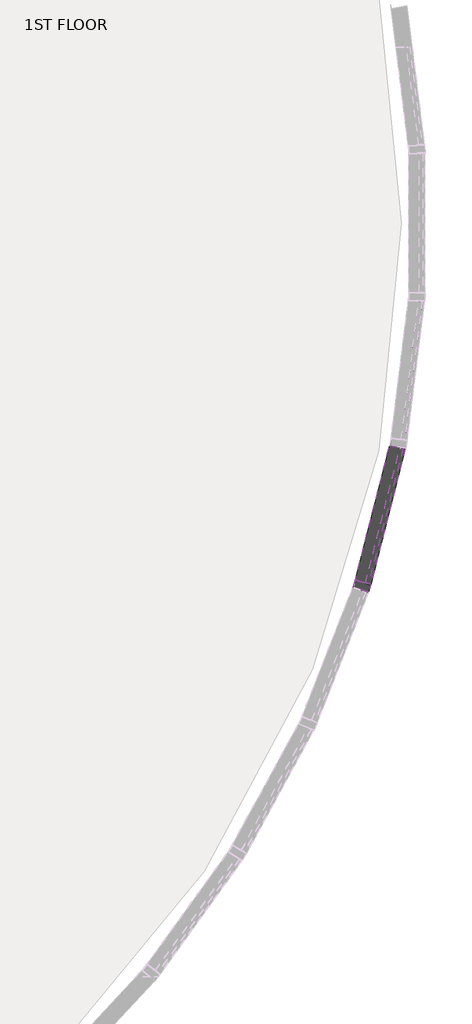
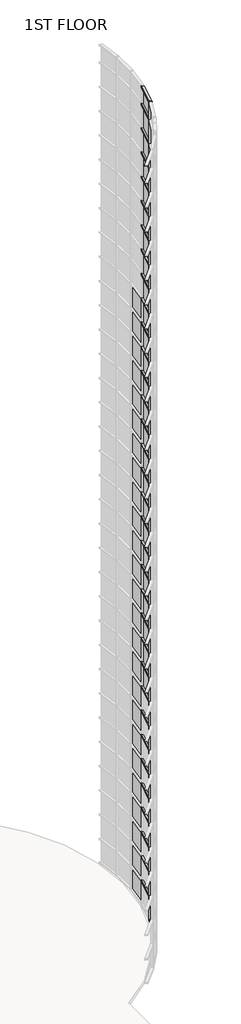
# One storey, part 8 of 17: 69 members, 50 plates.
"""IFC4 building model written with IfcOpenShell, lengths in millimetres."""

from ifc_helpers import new_model, si_unit, origin, place, context, project, spatial, transform, mapped, element, save
from components import member_56cb0dcd, member_0c249660, member_2b49869a, member_410c6227, system_panel_glazed_ce2914f7, system_panel_glazed_e049e42f, system_panel_glazed_5ae89cf9

model = new_model("IFC4")

# Units and contexts
model_context = context("Model", 3, world=origin())
ifc_project = project(units=[si_unit("LENGTHUNIT", "METRE", prefix="MILLI")], contexts=[model_context])

# Site, building, storey
site = spatial("IfcSite", under=ifc_project)
building = spatial("IfcBuilding", under=site)
storey = spatial("IfcBuildingStorey", under=building, Name="1ST FLOOR", Elevation=4572.0)

# Members
placement = place(None, origin())
member_shape = member_56cb0dcd(model_context)
element("IfcMember", 1, ObjectType="Rectangular Mullion : 2.5\" x 5\" rectangular", at=placement, inside=storey, context=model_context, shape_type="MappedRepresentation", body=[
    mapped(member_shape, transform((47831.5995156, 14092.143718, 45720.0), x_axis=(0.0, 0.0, 1.0), y_axis=(-0.9689314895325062, 0.24732927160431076, 0.0), z_axis=(-0.24732927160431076, -0.9689314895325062, 0.0))),
])
element("IfcMember", 2, ObjectType="Rectangular Mullion : 2.5\" x 5\" rectangular", at=placement, inside=storey, context=model_context, shape_type="MappedRepresentation", body=[
    mapped(member_shape, transform((47812.1210744, 14031.8351818, 4572.0), x_axis=(0.0, 0.0, -1.0), y_axis=(-0.9305499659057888, 0.36616493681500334, 0.0), z_axis=(0.36616493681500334, 0.9305499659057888, 0.0))),
])
member_2_shape = member_0c249660(model_context)
element("IfcMember", 3, ObjectType="Rectangular Mullion : 2.5\" x 5\" rectangular", at=placement, inside=storey, context=model_context, shape_type="MappedRepresentation", body=[
    mapped(member_2_shape, transform((47831.5995156, 14092.143718, 5791.2), x_axis=(0.0, 0.0, 1.0), y_axis=(-0.9689314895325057, 0.24732927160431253, 0.0), z_axis=(-0.24732927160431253, -0.9689314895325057, 0.0))),
])
element("IfcMember", 4, ObjectType="Rectangular Mullion : 2.5\" x 5\" rectangular", at=placement, inside=storey, context=model_context, shape_type="MappedRepresentation", body=[
    mapped(member_2_shape, transform((47831.5995156, 14092.143718, 7010.4), x_axis=(0.0, 0.0, 1.0), y_axis=(-0.9689314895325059, 0.2473292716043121, 0.0), z_axis=(-0.2473292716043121, -0.9689314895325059, 0.0))),
])
element("IfcMember", 5, ObjectType="Rectangular Mullion : 2.5\" x 5\" rectangular", at=placement, inside=storey, context=model_context, shape_type="MappedRepresentation", body=[
    mapped(member_2_shape, transform((47831.5995156, 14092.143718, 8229.6), x_axis=(0.0, 0.0, 1.0), y_axis=(-0.9689314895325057, 0.24732927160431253, 0.0), z_axis=(-0.24732927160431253, -0.9689314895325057, 0.0))),
])
element("IfcMember", 6, ObjectType="Rectangular Mullion : 2.5\" x 5\" rectangular", at=placement, inside=storey, context=model_context, shape_type="MappedRepresentation", body=[
    mapped(member_2_shape, transform((47831.5995156, 14092.143718, 9448.8), x_axis=(0.0, 0.0, 1.0), y_axis=(-0.9689314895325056, 0.247329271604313, 0.0), z_axis=(-0.24732927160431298, -0.9689314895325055, 0.0))),
])
element("IfcMember", 7, ObjectType="Rectangular Mullion : 2.5\" x 5\" rectangular", at=placement, inside=storey, context=model_context, shape_type="MappedRepresentation", body=[
    mapped(member_2_shape, transform((47831.5995156, 14092.143718, 10668.0), x_axis=(0.0, 0.0, 1.0), y_axis=(-0.9689314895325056, 0.247329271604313, 0.0), z_axis=(-0.24732927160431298, -0.9689314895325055, 0.0))),
])
element("IfcMember", 8, ObjectType="Rectangular Mullion : 2.5\" x 5\" rectangular", at=placement, inside=storey, context=model_context, shape_type="MappedRepresentation", body=[
    mapped(member_2_shape, transform((47831.5995156, 14092.143718, 11887.2), x_axis=(0.0, 0.0, 1.0), y_axis=(-0.9689314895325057, 0.24732927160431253, 0.0), z_axis=(-0.24732927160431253, -0.9689314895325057, 0.0))),
])
element("IfcMember", 9, ObjectType="Rectangular Mullion : 2.5\" x 5\" rectangular", at=placement, inside=storey, context=model_context, shape_type="MappedRepresentation", body=[
    mapped(member_2_shape, transform((47831.5995156, 14092.143718, 13106.4), x_axis=(0.0, 0.0, 1.0), y_axis=(-0.9689314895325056, 0.247329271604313, 0.0), z_axis=(-0.24732927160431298, -0.9689314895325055, 0.0))),
])
element("IfcMember", 10, ObjectType="Rectangular Mullion : 2.5\" x 5\" rectangular", at=placement, inside=storey, context=model_context, shape_type="MappedRepresentation", body=[
    mapped(member_2_shape, transform((47831.5995156, 14092.143718, 14325.6), x_axis=(0.0, 0.0, 1.0), y_axis=(-0.9689314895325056, 0.247329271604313, 0.0), z_axis=(-0.24732927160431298, -0.9689314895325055, 0.0))),
])
element("IfcMember", 11, ObjectType="Rectangular Mullion : 2.5\" x 5\" rectangular", at=placement, inside=storey, context=model_context, shape_type="MappedRepresentation", body=[
    mapped(member_2_shape, transform((47831.5995156, 14092.143718, 15544.8), x_axis=(0.0, 0.0, 1.0), y_axis=(-0.9689314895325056, 0.247329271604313, 0.0), z_axis=(-0.24732927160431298, -0.9689314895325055, 0.0))),
])
element("IfcMember", 12, ObjectType="Rectangular Mullion : 2.5\" x 5\" rectangular", at=placement, inside=storey, context=model_context, shape_type="MappedRepresentation", body=[
    mapped(member_2_shape, transform((47831.5995156, 14092.143718, 16764.0), x_axis=(0.0, 0.0, 1.0), y_axis=(-0.9689314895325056, 0.247329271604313, 0.0), z_axis=(-0.24732927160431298, -0.9689314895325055, 0.0))),
])
element("IfcMember", 13, ObjectType="Rectangular Mullion : 2.5\" x 5\" rectangular", at=placement, inside=storey, context=model_context, shape_type="MappedRepresentation", body=[
    mapped(member_2_shape, transform((47831.5995156, 14092.143718, 17983.2), x_axis=(0.0, 0.0, 1.0), y_axis=(-0.9689314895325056, 0.247329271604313, 0.0), z_axis=(-0.24732927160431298, -0.9689314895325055, 0.0))),
])
element("IfcMember", 14, ObjectType="Rectangular Mullion : 2.5\" x 5\" rectangular", at=placement, inside=storey, context=model_context, shape_type="MappedRepresentation", body=[
    mapped(member_2_shape, transform((47831.5995156, 14092.143718, 19202.4), x_axis=(0.0, 0.0, 1.0), y_axis=(-0.9689314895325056, 0.247329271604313, 0.0), z_axis=(-0.24732927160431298, -0.9689314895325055, 0.0))),
])
element("IfcMember", 15, ObjectType="Rectangular Mullion : 2.5\" x 5\" rectangular", at=placement, inside=storey, context=model_context, shape_type="MappedRepresentation", body=[
    mapped(member_2_shape, transform((47831.5995156, 14092.143718, 20421.6), x_axis=(0.0, 0.0, 1.0), y_axis=(-0.9689314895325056, 0.247329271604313, 0.0), z_axis=(-0.24732927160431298, -0.9689314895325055, 0.0))),
])
element("IfcMember", 16, ObjectType="Rectangular Mullion : 2.5\" x 5\" rectangular", at=placement, inside=storey, context=model_context, shape_type="MappedRepresentation", body=[
    mapped(member_2_shape, transform((47831.5995156, 14092.143718, 21640.8), x_axis=(0.0, 0.0, 1.0), y_axis=(-0.9689314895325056, 0.247329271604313, 0.0), z_axis=(-0.24732927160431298, -0.9689314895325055, 0.0))),
])
element("IfcMember", 17, ObjectType="Rectangular Mullion : 2.5\" x 5\" rectangular", at=placement, inside=storey, context=model_context, shape_type="MappedRepresentation", body=[
    mapped(member_2_shape, transform((47831.5995156, 14092.143718, 22860.0), x_axis=(0.0, 0.0, 1.0), y_axis=(-0.9689314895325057, 0.24732927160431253, 0.0), z_axis=(-0.24732927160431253, -0.9689314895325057, 0.0))),
])
element("IfcMember", 18, ObjectType="Rectangular Mullion : 2.5\" x 5\" rectangular", at=placement, inside=storey, context=model_context, shape_type="MappedRepresentation", body=[
    mapped(member_2_shape, transform((47831.5995156, 14092.143718, 24079.2), x_axis=(0.0, 0.0, 1.0), y_axis=(-0.9689314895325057, 0.24732927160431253, 0.0), z_axis=(-0.24732927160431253, -0.9689314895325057, 0.0))),
])
element("IfcMember", 19, ObjectType="Rectangular Mullion : 2.5\" x 5\" rectangular", at=placement, inside=storey, context=model_context, shape_type="MappedRepresentation", body=[
    mapped(member_2_shape, transform((47831.5995156, 14092.143718, 25298.4), x_axis=(0.0, 0.0, 1.0), y_axis=(-0.9689314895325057, 0.24732927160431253, 0.0), z_axis=(-0.24732927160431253, -0.9689314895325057, 0.0))),
])
element("IfcMember", 20, ObjectType="Rectangular Mullion : 2.5\" x 5\" rectangular", at=placement, inside=storey, context=model_context, shape_type="MappedRepresentation", body=[
    mapped(member_2_shape, transform((47831.5995156, 14092.143718, 26517.6), x_axis=(0.0, 0.0, 1.0), y_axis=(-0.9689314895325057, 0.24732927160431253, 0.0), z_axis=(-0.24732927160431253, -0.9689314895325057, 0.0))),
])
element("IfcMember", 21, ObjectType="Rectangular Mullion : 2.5\" x 5\" rectangular", at=placement, inside=storey, context=model_context, shape_type="MappedRepresentation", body=[
    mapped(member_2_shape, transform((47831.5995156, 14092.143718, 27736.8), x_axis=(0.0, 0.0, 1.0), y_axis=(-0.9689314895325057, 0.24732927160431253, 0.0), z_axis=(-0.24732927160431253, -0.9689314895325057, 0.0))),
])
element("IfcMember", 22, ObjectType="Rectangular Mullion : 2.5\" x 5\" rectangular", at=placement, inside=storey, context=model_context, shape_type="MappedRepresentation", body=[
    mapped(member_2_shape, transform((47831.5995156, 14092.143718, 28956.0), x_axis=(0.0, 0.0, 1.0), y_axis=(-0.9689314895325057, 0.24732927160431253, 0.0), z_axis=(-0.24732927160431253, -0.9689314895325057, 0.0))),
])
element("IfcMember", 23, ObjectType="Rectangular Mullion : 2.5\" x 5\" rectangular", at=placement, inside=storey, context=model_context, shape_type="MappedRepresentation", body=[
    mapped(member_2_shape, transform((47831.5995156, 14092.143718, 30175.2), x_axis=(0.0, 0.0, 1.0), y_axis=(-0.9689314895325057, 0.24732927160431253, 0.0), z_axis=(-0.24732927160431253, -0.9689314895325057, 0.0))),
])
element("IfcMember", 24, ObjectType="Rectangular Mullion : 2.5\" x 5\" rectangular", at=placement, inside=storey, context=model_context, shape_type="MappedRepresentation", body=[
    mapped(member_2_shape, transform((47831.5995156, 14092.143718, 31394.4), x_axis=(0.0, 0.0, 1.0), y_axis=(-0.9689314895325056, 0.247329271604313, 0.0), z_axis=(-0.24732927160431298, -0.9689314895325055, 0.0))),
])
element("IfcMember", 25, ObjectType="Rectangular Mullion : 2.5\" x 5\" rectangular", at=placement, inside=storey, context=model_context, shape_type="MappedRepresentation", body=[
    mapped(member_2_shape, transform((47831.5995156, 14092.143718, 32613.6), x_axis=(0.0, 0.0, 1.0), y_axis=(-0.9689314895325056, 0.247329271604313, 0.0), z_axis=(-0.24732927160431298, -0.9689314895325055, 0.0))),
])
element("IfcMember", 26, ObjectType="Rectangular Mullion : 2.5\" x 5\" rectangular", at=placement, inside=storey, context=model_context, shape_type="MappedRepresentation", body=[
    mapped(member_2_shape, transform((47831.5995156, 14092.143718, 33832.8), x_axis=(0.0, 0.0, 1.0), y_axis=(-0.9689314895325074, 0.24732927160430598, 0.0), z_axis=(-0.24732927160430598, -0.9689314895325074, 0.0))),
])
element("IfcMember", 27, ObjectType="Rectangular Mullion : 2.5\" x 5\" rectangular", at=placement, inside=storey, context=model_context, shape_type="MappedRepresentation", body=[
    mapped(member_2_shape, transform((47831.5995156, 14092.143718, 35052.0), x_axis=(0.0, 0.0, 1.0), y_axis=(-0.9689314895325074, 0.24732927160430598, 0.0), z_axis=(-0.24732927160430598, -0.9689314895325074, 0.0))),
])
element("IfcMember", 28, ObjectType="Rectangular Mullion : 2.5\" x 5\" rectangular", at=placement, inside=storey, context=model_context, shape_type="MappedRepresentation", body=[
    mapped(member_2_shape, transform((47831.5995156, 14092.143718, 36271.2), x_axis=(0.0, 0.0, 1.0), y_axis=(-0.9689314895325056, 0.247329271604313, 0.0), z_axis=(-0.24732927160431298, -0.9689314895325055, 0.0))),
])
element("IfcMember", 29, ObjectType="Rectangular Mullion : 2.5\" x 5\" rectangular", at=placement, inside=storey, context=model_context, shape_type="MappedRepresentation", body=[
    mapped(member_2_shape, transform((47831.5995156, 14092.143718, 37490.4), x_axis=(0.0, 0.0, 1.0), y_axis=(-0.9689314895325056, 0.247329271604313, 0.0), z_axis=(-0.24732927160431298, -0.9689314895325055, 0.0))),
])
element("IfcMember", 30, ObjectType="Rectangular Mullion : 2.5\" x 5\" rectangular", at=placement, inside=storey, context=model_context, shape_type="MappedRepresentation", body=[
    mapped(member_2_shape, transform((47831.5995156, 14092.143718, 38709.6), x_axis=(0.0, 0.0, 1.0), y_axis=(-0.9689314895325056, 0.247329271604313, 0.0), z_axis=(-0.24732927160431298, -0.9689314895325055, 0.0))),
])
element("IfcMember", 31, ObjectType="Rectangular Mullion : 2.5\" x 5\" rectangular", at=placement, inside=storey, context=model_context, shape_type="MappedRepresentation", body=[
    mapped(member_2_shape, transform((47831.5995156, 14092.143718, 39928.8), x_axis=(0.0, 0.0, 1.0), y_axis=(-0.9689314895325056, 0.247329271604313, 0.0), z_axis=(-0.24732927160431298, -0.9689314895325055, 0.0))),
])
element("IfcMember", 32, ObjectType="Rectangular Mullion : 2.5\" x 5\" rectangular", at=placement, inside=storey, context=model_context, shape_type="MappedRepresentation", body=[
    mapped(member_2_shape, transform((47831.5995156, 14092.143718, 41148.0), x_axis=(0.0, 0.0, 1.0), y_axis=(-0.9689314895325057, 0.24732927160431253, 0.0), z_axis=(-0.24732927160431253, -0.9689314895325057, 0.0))),
])
element("IfcMember", 33, ObjectType="Rectangular Mullion : 2.5\" x 5\" rectangular", at=placement, inside=storey, context=model_context, shape_type="MappedRepresentation", body=[
    mapped(member_2_shape, transform((47831.5995156, 14092.143718, 42367.2), x_axis=(0.0, 0.0, 1.0), y_axis=(-0.9689314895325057, 0.24732927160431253, 0.0), z_axis=(-0.24732927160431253, -0.9689314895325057, 0.0))),
])
element("IfcMember", 34, ObjectType="Rectangular Mullion : 2.5\" x 5\" rectangular", at=placement, inside=storey, context=model_context, shape_type="MappedRepresentation", body=[
    mapped(member_2_shape, transform((47831.5995156, 14092.143718, 43586.4), x_axis=(0.0, 0.0, 1.0), y_axis=(-0.9689314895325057, 0.24732927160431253, 0.0), z_axis=(-0.24732927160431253, -0.9689314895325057, 0.0))),
])
element("IfcMember", 35, ObjectType="Rectangular Mullion : 2.5\" x 5\" rectangular", at=placement, inside=storey, context=model_context, shape_type="MappedRepresentation", body=[
    mapped(member_2_shape, transform((47831.5995156, 14092.143718, 44805.6), x_axis=(0.0, 0.0, 1.0), y_axis=(-0.9689314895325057, 0.24732927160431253, 0.0), z_axis=(-0.24732927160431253, -0.9689314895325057, 0.0))),
])
member_3_shape = member_2b49869a(model_context)
element("IfcMember", 36, ObjectType="Rectangular Mullion : 2.5\" x 5\" rectangular", at=placement, inside=storey, context=model_context, shape_type="MappedRepresentation", body=[
    mapped(member_3_shape, transform((47823.7468112, 14061.3801432, 4572.0), x_axis=(-0.30734682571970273, -0.9515975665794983, 0.0), y_axis=(-0.9515975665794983, 0.30734682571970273, 0.0), z_axis=(0.0, 0.0, -1.0))),
])
element("IfcMember", 37, ObjectType="Rectangular Mullion : 2.5\" x 5\" rectangular", at=placement, inside=storey, context=model_context, shape_type="MappedRepresentation", body=[
    mapped(member_3_shape, transform((47823.7468112, 14061.3801432, 5791.2), x_axis=(-0.30734682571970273, -0.9515975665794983, 0.0), y_axis=(-0.9515975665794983, 0.30734682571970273, 0.0), z_axis=(0.0, 0.0, -1.0))),
])
element("IfcMember", 38, ObjectType="Rectangular Mullion : 2.5\" x 5\" rectangular", at=placement, inside=storey, context=model_context, shape_type="MappedRepresentation", body=[
    mapped(member_3_shape, transform((47823.7468112, 14061.3801432, 7010.4), x_axis=(-0.30734682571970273, -0.9515975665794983, 0.0), y_axis=(-0.9515975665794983, 0.30734682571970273, 0.0), z_axis=(0.0, 0.0, -1.0))),
])
element("IfcMember", 39, ObjectType="Rectangular Mullion : 2.5\" x 5\" rectangular", at=placement, inside=storey, context=model_context, shape_type="MappedRepresentation", body=[
    mapped(member_3_shape, transform((47823.7468112, 14061.3801432, 8229.6), x_axis=(-0.30734682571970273, -0.9515975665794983, 0.0), y_axis=(-0.9515975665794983, 0.30734682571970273, 0.0), z_axis=(0.0, 0.0, -1.0))),
])
element("IfcMember", 40, ObjectType="Rectangular Mullion : 2.5\" x 5\" rectangular", at=placement, inside=storey, context=model_context, shape_type="MappedRepresentation", body=[
    mapped(member_3_shape, transform((47823.7468112, 14061.3801432, 9448.8), x_axis=(-0.30734682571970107, -0.9515975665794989, 0.0), y_axis=(-0.9515975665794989, 0.30734682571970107, 0.0), z_axis=(0.0, 0.0, -1.0))),
])
element("IfcMember", 41, ObjectType="Rectangular Mullion : 2.5\" x 5\" rectangular", at=placement, inside=storey, context=model_context, shape_type="MappedRepresentation", body=[
    mapped(member_3_shape, transform((47823.7468112, 14061.3801432, 10668.0), x_axis=(-0.30734682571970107, -0.9515975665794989, 0.0), y_axis=(-0.9515975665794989, 0.30734682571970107, 0.0), z_axis=(0.0, 0.0, -1.0))),
])
element("IfcMember", 42, ObjectType="Rectangular Mullion : 2.5\" x 5\" rectangular", at=placement, inside=storey, context=model_context, shape_type="MappedRepresentation", body=[
    mapped(member_3_shape, transform((47823.7468112, 14061.3801432, 11887.2), x_axis=(-0.30734682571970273, -0.9515975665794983, 0.0), y_axis=(-0.9515975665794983, 0.30734682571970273, 0.0), z_axis=(0.0, 0.0, -1.0))),
])
element("IfcMember", 43, ObjectType="Rectangular Mullion : 2.5\" x 5\" rectangular", at=placement, inside=storey, context=model_context, shape_type="MappedRepresentation", body=[
    mapped(member_3_shape, transform((47823.7468112, 14061.3801432, 13106.4), x_axis=(-0.30734682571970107, -0.9515975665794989, 0.0), y_axis=(-0.9515975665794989, 0.30734682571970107, 0.0), z_axis=(0.0, 0.0, -1.0))),
])
element("IfcMember", 44, ObjectType="Rectangular Mullion : 2.5\" x 5\" rectangular", at=placement, inside=storey, context=model_context, shape_type="MappedRepresentation", body=[
    mapped(member_3_shape, transform((47823.7468112, 14061.3801432, 14325.6), x_axis=(-0.30734682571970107, -0.9515975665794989, 0.0), y_axis=(-0.9515975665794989, 0.30734682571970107, 0.0), z_axis=(0.0, 0.0, -1.0))),
])
element("IfcMember", 45, ObjectType="Rectangular Mullion : 2.5\" x 5\" rectangular", at=placement, inside=storey, context=model_context, shape_type="MappedRepresentation", body=[
    mapped(member_3_shape, transform((47823.7468112, 14061.3801432, 15544.8), x_axis=(-0.30734682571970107, -0.9515975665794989, 0.0), y_axis=(-0.9515975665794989, 0.30734682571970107, 0.0), z_axis=(0.0, 0.0, -1.0))),
])
element("IfcMember", 46, ObjectType="Rectangular Mullion : 2.5\" x 5\" rectangular", at=placement, inside=storey, context=model_context, shape_type="MappedRepresentation", body=[
    mapped(member_3_shape, transform((47823.7468112, 14061.3801432, 16764.0), x_axis=(-0.30734682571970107, -0.9515975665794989, 0.0), y_axis=(-0.9515975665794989, 0.30734682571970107, 0.0), z_axis=(0.0, 0.0, -1.0))),
])
element("IfcMember", 47, ObjectType="Rectangular Mullion : 2.5\" x 5\" rectangular", at=placement, inside=storey, context=model_context, shape_type="MappedRepresentation", body=[
    mapped(member_3_shape, transform((47823.7468112, 14061.3801432, 17983.2), x_axis=(-0.30734682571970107, -0.9515975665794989, 0.0), y_axis=(-0.9515975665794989, 0.30734682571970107, 0.0), z_axis=(0.0, 0.0, -1.0))),
])
element("IfcMember", 48, ObjectType="Rectangular Mullion : 2.5\" x 5\" rectangular", at=placement, inside=storey, context=model_context, shape_type="MappedRepresentation", body=[
    mapped(member_3_shape, transform((47823.7468112, 14061.3801432, 19202.4), x_axis=(-0.30734682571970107, -0.9515975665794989, 0.0), y_axis=(-0.9515975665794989, 0.30734682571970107, 0.0), z_axis=(0.0, 0.0, -1.0))),
])
element("IfcMember", 49, ObjectType="Rectangular Mullion : 2.5\" x 5\" rectangular", at=placement, inside=storey, context=model_context, shape_type="MappedRepresentation", body=[
    mapped(member_3_shape, transform((47823.7468112, 14061.3801432, 20421.6), x_axis=(-0.30734682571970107, -0.9515975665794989, 0.0), y_axis=(-0.9515975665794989, 0.30734682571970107, 0.0), z_axis=(0.0, 0.0, -1.0))),
])
element("IfcMember", 50, ObjectType="Rectangular Mullion : 2.5\" x 5\" rectangular", at=placement, inside=storey, context=model_context, shape_type="MappedRepresentation", body=[
    mapped(member_3_shape, transform((47823.7468112, 14061.3801432, 21640.8), x_axis=(-0.30734682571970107, -0.9515975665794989, 0.0), y_axis=(-0.9515975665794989, 0.30734682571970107, 0.0), z_axis=(0.0, 0.0, -1.0))),
])
element("IfcMember", 51, ObjectType="Rectangular Mullion : 2.5\" x 5\" rectangular", at=placement, inside=storey, context=model_context, shape_type="MappedRepresentation", body=[
    mapped(member_3_shape, transform((47823.7468112, 14061.3801432, 22860.0), x_axis=(-0.30734682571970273, -0.9515975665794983, 0.0), y_axis=(-0.9515975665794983, 0.30734682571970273, 0.0), z_axis=(0.0, 0.0, -1.0))),
])
element("IfcMember", 52, ObjectType="Rectangular Mullion : 2.5\" x 5\" rectangular", at=placement, inside=storey, context=model_context, shape_type="MappedRepresentation", body=[
    mapped(member_3_shape, transform((47823.7468112, 14061.3801432, 24079.2), x_axis=(-0.30734682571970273, -0.9515975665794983, 0.0), y_axis=(-0.9515975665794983, 0.30734682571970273, 0.0), z_axis=(0.0, 0.0, -1.0))),
])
element("IfcMember", 53, ObjectType="Rectangular Mullion : 2.5\" x 5\" rectangular", at=placement, inside=storey, context=model_context, shape_type="MappedRepresentation", body=[
    mapped(member_3_shape, transform((47823.7468112, 14061.3801432, 25298.4), x_axis=(-0.30734682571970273, -0.9515975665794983, 0.0), y_axis=(-0.9515975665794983, 0.30734682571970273, 0.0), z_axis=(0.0, 0.0, -1.0))),
])
element("IfcMember", 54, ObjectType="Rectangular Mullion : 2.5\" x 5\" rectangular", at=placement, inside=storey, context=model_context, shape_type="MappedRepresentation", body=[
    mapped(member_3_shape, transform((47823.7468112, 14061.3801432, 26517.6), x_axis=(-0.30734682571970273, -0.9515975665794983, 0.0), y_axis=(-0.9515975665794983, 0.30734682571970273, 0.0), z_axis=(0.0, 0.0, -1.0))),
])
element("IfcMember", 55, ObjectType="Rectangular Mullion : 2.5\" x 5\" rectangular", at=placement, inside=storey, context=model_context, shape_type="MappedRepresentation", body=[
    mapped(member_3_shape, transform((47823.7468112, 14061.3801432, 27736.8), x_axis=(-0.30734682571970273, -0.9515975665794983, 0.0), y_axis=(-0.9515975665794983, 0.30734682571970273, 0.0), z_axis=(0.0, 0.0, -1.0))),
])
element("IfcMember", 56, ObjectType="Rectangular Mullion : 2.5\" x 5\" rectangular", at=placement, inside=storey, context=model_context, shape_type="MappedRepresentation", body=[
    mapped(member_3_shape, transform((47823.7468112, 14061.3801432, 28956.0), x_axis=(-0.30734682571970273, -0.9515975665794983, 0.0), y_axis=(-0.9515975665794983, 0.30734682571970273, 0.0), z_axis=(0.0, 0.0, -1.0))),
])
element("IfcMember", 57, ObjectType="Rectangular Mullion : 2.5\" x 5\" rectangular", at=placement, inside=storey, context=model_context, shape_type="MappedRepresentation", body=[
    mapped(member_3_shape, transform((47823.7468112, 14061.3801432, 30175.2), x_axis=(-0.30734682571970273, -0.9515975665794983, 0.0), y_axis=(-0.9515975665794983, 0.30734682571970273, 0.0), z_axis=(0.0, 0.0, -1.0))),
])
element("IfcMember", 58, ObjectType="Rectangular Mullion : 2.5\" x 5\" rectangular", at=placement, inside=storey, context=model_context, shape_type="MappedRepresentation", body=[
    mapped(member_3_shape, transform((47823.7468112, 14061.3801432, 31394.4), x_axis=(-0.30734682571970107, -0.9515975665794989, 0.0), y_axis=(-0.9515975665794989, 0.30734682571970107, 0.0), z_axis=(0.0, 0.0, -1.0))),
])
element("IfcMember", 59, ObjectType="Rectangular Mullion : 2.5\" x 5\" rectangular", at=placement, inside=storey, context=model_context, shape_type="MappedRepresentation", body=[
    mapped(member_3_shape, transform((47823.7468112, 14061.3801432, 32613.6), x_axis=(-0.30734682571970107, -0.9515975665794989, 0.0), y_axis=(-0.9515975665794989, 0.30734682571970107, 0.0), z_axis=(0.0, 0.0, -1.0))),
])
element("IfcMember", 60, ObjectType="Rectangular Mullion : 2.5\" x 5\" rectangular", at=placement, inside=storey, context=model_context, shape_type="MappedRepresentation", body=[
    mapped(member_3_shape, transform((47823.7468112, 14061.3801432, 33832.8), x_axis=(-0.3073468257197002, -0.9515975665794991, 0.0), y_axis=(-0.9515975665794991, 0.3073468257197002, 0.0), z_axis=(0.0, 0.0, -1.0))),
])
element("IfcMember", 61, ObjectType="Rectangular Mullion : 2.5\" x 5\" rectangular", at=placement, inside=storey, context=model_context, shape_type="MappedRepresentation", body=[
    mapped(member_3_shape, transform((47823.7468112, 14061.3801432, 35052.0), x_axis=(-0.3073468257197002, -0.9515975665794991, 0.0), y_axis=(-0.9515975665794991, 0.3073468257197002, 0.0), z_axis=(0.0, 0.0, -1.0))),
])
element("IfcMember", 62, ObjectType="Rectangular Mullion : 2.5\" x 5\" rectangular", at=placement, inside=storey, context=model_context, shape_type="MappedRepresentation", body=[
    mapped(member_3_shape, transform((47823.7468112, 14061.3801432, 36271.2), x_axis=(-0.30734682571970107, -0.9515975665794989, 0.0), y_axis=(-0.9515975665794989, 0.30734682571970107, 0.0), z_axis=(0.0, 0.0, -1.0))),
])
element("IfcMember", 63, ObjectType="Rectangular Mullion : 2.5\" x 5\" rectangular", at=placement, inside=storey, context=model_context, shape_type="MappedRepresentation", body=[
    mapped(member_3_shape, transform((47823.7468112, 14061.3801432, 37490.4), x_axis=(-0.30734682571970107, -0.9515975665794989, 0.0), y_axis=(-0.9515975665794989, 0.30734682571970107, 0.0), z_axis=(0.0, 0.0, -1.0))),
])
element("IfcMember", 64, ObjectType="Rectangular Mullion : 2.5\" x 5\" rectangular", at=placement, inside=storey, context=model_context, shape_type="MappedRepresentation", body=[
    mapped(member_3_shape, transform((47823.7468112, 14061.3801432, 38709.6), x_axis=(-0.30734682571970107, -0.9515975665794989, 0.0), y_axis=(-0.9515975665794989, 0.30734682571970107, 0.0), z_axis=(0.0, 0.0, -1.0))),
])
element("IfcMember", 65, ObjectType="Rectangular Mullion : 2.5\" x 5\" rectangular", at=placement, inside=storey, context=model_context, shape_type="MappedRepresentation", body=[
    mapped(member_3_shape, transform((47823.7468112, 14061.3801432, 39928.8), x_axis=(-0.30734682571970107, -0.9515975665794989, 0.0), y_axis=(-0.9515975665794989, 0.30734682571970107, 0.0), z_axis=(0.0, 0.0, -1.0))),
])
element("IfcMember", 66, ObjectType="Rectangular Mullion : 2.5\" x 5\" rectangular", at=placement, inside=storey, context=model_context, shape_type="MappedRepresentation", body=[
    mapped(member_3_shape, transform((47823.7468112, 14061.3801432, 41148.0), x_axis=(-0.30734682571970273, -0.9515975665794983, 0.0), y_axis=(-0.9515975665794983, 0.30734682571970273, 0.0), z_axis=(0.0, 0.0, -1.0))),
])
element("IfcMember", 67, ObjectType="Rectangular Mullion : 2.5\" x 5\" rectangular", at=placement, inside=storey, context=model_context, shape_type="MappedRepresentation", body=[
    mapped(member_3_shape, transform((47823.7468112, 14061.3801432, 42367.2), x_axis=(-0.30734682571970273, -0.9515975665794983, 0.0), y_axis=(-0.9515975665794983, 0.30734682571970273, 0.0), z_axis=(0.0, 0.0, -1.0))),
])
element("IfcMember", 68, ObjectType="Rectangular Mullion : 2.5\" x 5\" rectangular", at=placement, inside=storey, context=model_context, shape_type="MappedRepresentation", body=[
    mapped(member_3_shape, transform((47823.7468112, 14061.3801432, 43586.4), x_axis=(-0.30734682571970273, -0.9515975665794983, 0.0), y_axis=(-0.9515975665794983, 0.30734682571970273, 0.0), z_axis=(0.0, 0.0, -1.0))),
])
member_4_shape = member_410c6227(model_context)
element("IfcMember", 69, ObjectType="Rectangular Mullion : 2.5\" x 5\" rectangular", at=placement, inside=storey, context=model_context, shape_type="MappedRepresentation", body=[
    mapped(member_4_shape, transform((47823.7468112, 14061.3801432, 44805.6), x_axis=(-0.30734682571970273, -0.9515975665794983, 0.0), y_axis=(-0.9515975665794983, 0.30734682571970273, 0.0), z_axis=(0.0, 0.0, -1.0))),
])

# Plates
system_panel_glazed_shape = system_panel_glazed_ce2914f7(model_context)
element("IfcPlate", 70, ObjectType="System Panel : Glazed", at=placement, inside=storey, context=model_context, shape_type="MappedRepresentation", body=[
    mapped(system_panel_glazed_shape, transform((48183.3505373, 15762.7702612, 4635.5), x_axis=(-0.12463649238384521, -0.9922024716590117, 0.0), y_axis=(0.9922024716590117, -0.12463649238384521, 0.0), z_axis=(0.0, 0.0, 1.0))),
])
system_panel_glazed_2_shape = system_panel_glazed_e049e42f(model_context)
element("IfcPlate", 71, ObjectType="System Panel : Glazed", at=placement, inside=storey, context=model_context, shape_type="MappedRepresentation", body=[
    mapped(system_panel_glazed_2_shape, transform((48183.3505373, 15762.7702612, 5822.95), x_axis=(-0.12463649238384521, -0.9922024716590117, 0.0), y_axis=(0.9922024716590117, -0.12463649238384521, 0.0), z_axis=(0.0, 0.0, 1.0))),
])
element("IfcPlate", 72, ObjectType="System Panel : Glazed", at=placement, inside=storey, context=model_context, shape_type="MappedRepresentation", body=[
    mapped(system_panel_glazed_2_shape, transform((48183.3505373, 15762.7702612, 7042.15), x_axis=(-0.12463649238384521, -0.9922024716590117, 0.0), y_axis=(0.9922024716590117, -0.12463649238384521, 0.0), z_axis=(0.0, 0.0, 1.0))),
])
element("IfcPlate", 73, ObjectType="System Panel : Glazed", at=placement, inside=storey, context=model_context, shape_type="MappedRepresentation", body=[
    mapped(system_panel_glazed_2_shape, transform((48183.3505373, 15762.7702612, 8261.35), x_axis=(-0.12463649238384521, -0.9922024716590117, 0.0), y_axis=(0.9922024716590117, -0.12463649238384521, 0.0), z_axis=(0.0, 0.0, 1.0))),
])
element("IfcPlate", 74, ObjectType="System Panel : Glazed", at=placement, inside=storey, context=model_context, shape_type="MappedRepresentation", body=[
    mapped(system_panel_glazed_2_shape, transform((48183.3505373, 15762.7702612, 9480.55), x_axis=(-0.12463649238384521, -0.9922024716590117, 0.0), y_axis=(0.9922024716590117, -0.12463649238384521, 0.0), z_axis=(0.0, 0.0, 1.0))),
])
element("IfcPlate", 75, ObjectType="System Panel : Glazed", at=placement, inside=storey, context=model_context, shape_type="MappedRepresentation", body=[
    mapped(system_panel_glazed_2_shape, transform((48183.3505373, 15762.7702612, 10699.75), x_axis=(-0.12463649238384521, -0.9922024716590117, 0.0), y_axis=(0.9922024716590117, -0.12463649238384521, 0.0), z_axis=(0.0, 0.0, 1.0))),
])
element("IfcPlate", 76, ObjectType="System Panel : Glazed", at=placement, inside=storey, context=model_context, shape_type="MappedRepresentation", body=[
    mapped(system_panel_glazed_2_shape, transform((48183.3505373, 15762.7702612, 11918.95), x_axis=(-0.12463649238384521, -0.9922024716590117, 0.0), y_axis=(0.9922024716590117, -0.12463649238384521, 0.0), z_axis=(0.0, 0.0, 1.0))),
])
element("IfcPlate", 77, ObjectType="System Panel : Glazed", at=placement, inside=storey, context=model_context, shape_type="MappedRepresentation", body=[
    mapped(system_panel_glazed_2_shape, transform((48183.3505373, 15762.7702612, 13138.15), x_axis=(-0.12463649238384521, -0.9922024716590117, 0.0), y_axis=(0.9922024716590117, -0.12463649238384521, 0.0), z_axis=(0.0, 0.0, 1.0))),
])
element("IfcPlate", 78, ObjectType="System Panel : Glazed", at=placement, inside=storey, context=model_context, shape_type="MappedRepresentation", body=[
    mapped(system_panel_glazed_2_shape, transform((48183.3505373, 15762.7702612, 14357.35), x_axis=(-0.12463649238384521, -0.9922024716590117, 0.0), y_axis=(0.9922024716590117, -0.12463649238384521, 0.0), z_axis=(0.0, 0.0, 1.0))),
])
element("IfcPlate", 79, ObjectType="System Panel : Glazed", at=placement, inside=storey, context=model_context, shape_type="MappedRepresentation", body=[
    mapped(system_panel_glazed_2_shape, transform((48183.3505373, 15762.7702612, 15576.55), x_axis=(-0.12463649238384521, -0.9922024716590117, 0.0), y_axis=(0.9922024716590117, -0.12463649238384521, 0.0), z_axis=(0.0, 0.0, 1.0))),
])
element("IfcPlate", 80, ObjectType="System Panel : Glazed", at=placement, inside=storey, context=model_context, shape_type="MappedRepresentation", body=[
    mapped(system_panel_glazed_2_shape, transform((47967.3625719, 14624.0059579, 15576.55), x_axis=(-0.24732927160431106, -0.9689314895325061, 0.0), y_axis=(0.9689314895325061, -0.24732927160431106, 0.0), z_axis=(0.0, 0.0, 1.0))),
])
element("IfcPlate", 81, ObjectType="System Panel : Glazed", at=placement, inside=storey, context=model_context, shape_type="MappedRepresentation", body=[
    mapped(system_panel_glazed_2_shape, transform((48183.3505373, 15762.7702612, 16795.75), x_axis=(-0.12463649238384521, -0.9922024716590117, 0.0), y_axis=(0.9922024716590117, -0.12463649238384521, 0.0), z_axis=(0.0, 0.0, 1.0))),
])
element("IfcPlate", 82, ObjectType="System Panel : Glazed", at=placement, inside=storey, context=model_context, shape_type="MappedRepresentation", body=[
    mapped(system_panel_glazed_2_shape, transform((47967.3625719, 14624.0059579, 16795.75), x_axis=(-0.24732927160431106, -0.9689314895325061, 0.0), y_axis=(0.9689314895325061, -0.24732927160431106, 0.0), z_axis=(0.0, 0.0, 1.0))),
])
element("IfcPlate", 83, ObjectType="System Panel : Glazed", at=placement, inside=storey, context=model_context, shape_type="MappedRepresentation", body=[
    mapped(system_panel_glazed_2_shape, transform((48183.3505373, 15762.7702612, 18014.95), x_axis=(-0.12463649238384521, -0.9922024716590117, 0.0), y_axis=(0.9922024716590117, -0.12463649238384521, 0.0), z_axis=(0.0, 0.0, 1.0))),
])
element("IfcPlate", 84, ObjectType="System Panel : Glazed", at=placement, inside=storey, context=model_context, shape_type="MappedRepresentation", body=[
    mapped(system_panel_glazed_2_shape, transform((47967.3625719, 14624.0059579, 18014.95), x_axis=(-0.24732927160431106, -0.9689314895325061, 0.0), y_axis=(0.9689314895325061, -0.24732927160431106, 0.0), z_axis=(0.0, 0.0, 1.0))),
])
element("IfcPlate", 85, ObjectType="System Panel : Glazed", at=placement, inside=storey, context=model_context, shape_type="MappedRepresentation", body=[
    mapped(system_panel_glazed_2_shape, transform((48183.3505373, 15762.7702612, 19234.15), x_axis=(-0.12463649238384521, -0.9922024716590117, 0.0), y_axis=(0.9922024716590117, -0.12463649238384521, 0.0), z_axis=(0.0, 0.0, 1.0))),
])
element("IfcPlate", 86, ObjectType="System Panel : Glazed", at=placement, inside=storey, context=model_context, shape_type="MappedRepresentation", body=[
    mapped(system_panel_glazed_2_shape, transform((47967.3625719, 14624.0059579, 19234.15), x_axis=(-0.24732927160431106, -0.9689314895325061, 0.0), y_axis=(0.9689314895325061, -0.24732927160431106, 0.0), z_axis=(0.0, 0.0, 1.0))),
])
element("IfcPlate", 87, ObjectType="System Panel : Glazed", at=placement, inside=storey, context=model_context, shape_type="MappedRepresentation", body=[
    mapped(system_panel_glazed_2_shape, transform((48183.3505373, 15762.7702612, 20453.35), x_axis=(-0.12463649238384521, -0.9922024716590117, 0.0), y_axis=(0.9922024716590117, -0.12463649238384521, 0.0), z_axis=(0.0, 0.0, 1.0))),
])
element("IfcPlate", 88, ObjectType="System Panel : Glazed", at=placement, inside=storey, context=model_context, shape_type="MappedRepresentation", body=[
    mapped(system_panel_glazed_2_shape, transform((47967.3625719, 14624.0059579, 20453.35), x_axis=(-0.24732927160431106, -0.9689314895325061, 0.0), y_axis=(0.9689314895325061, -0.24732927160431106, 0.0), z_axis=(0.0, 0.0, 1.0))),
])
element("IfcPlate", 89, ObjectType="System Panel : Glazed", at=placement, inside=storey, context=model_context, shape_type="MappedRepresentation", body=[
    mapped(system_panel_glazed_2_shape, transform((48183.3505373, 15762.7702612, 21672.55), x_axis=(-0.12463649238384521, -0.9922024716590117, 0.0), y_axis=(0.9922024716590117, -0.12463649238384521, 0.0), z_axis=(0.0, 0.0, 1.0))),
])
element("IfcPlate", 90, ObjectType="System Panel : Glazed", at=placement, inside=storey, context=model_context, shape_type="MappedRepresentation", body=[
    mapped(system_panel_glazed_2_shape, transform((47967.3625719, 14624.0059579, 21672.55), x_axis=(-0.24732927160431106, -0.9689314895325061, 0.0), y_axis=(0.9689314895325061, -0.24732927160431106, 0.0), z_axis=(0.0, 0.0, 1.0))),
])
element("IfcPlate", 91, ObjectType="System Panel : Glazed", at=placement, inside=storey, context=model_context, shape_type="MappedRepresentation", body=[
    mapped(system_panel_glazed_2_shape, transform((48183.3505373, 15762.7702612, 22891.75), x_axis=(-0.12463649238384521, -0.9922024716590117, 0.0), y_axis=(0.9922024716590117, -0.12463649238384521, 0.0), z_axis=(0.0, 0.0, 1.0))),
])
element("IfcPlate", 92, ObjectType="System Panel : Glazed", at=placement, inside=storey, context=model_context, shape_type="MappedRepresentation", body=[
    mapped(system_panel_glazed_2_shape, transform((47967.3625719, 14624.0059579, 22891.75), x_axis=(-0.24732927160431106, -0.9689314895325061, 0.0), y_axis=(0.9689314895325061, -0.24732927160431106, 0.0), z_axis=(0.0, 0.0, 1.0))),
])
element("IfcPlate", 93, ObjectType="System Panel : Glazed", at=placement, inside=storey, context=model_context, shape_type="MappedRepresentation", body=[
    mapped(system_panel_glazed_2_shape, transform((48183.3505373, 15762.7702612, 24110.95), x_axis=(-0.12463649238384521, -0.9922024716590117, 0.0), y_axis=(0.9922024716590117, -0.12463649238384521, 0.0), z_axis=(0.0, 0.0, 1.0))),
])
element("IfcPlate", 94, ObjectType="System Panel : Glazed", at=placement, inside=storey, context=model_context, shape_type="MappedRepresentation", body=[
    mapped(system_panel_glazed_2_shape, transform((47967.3625719, 14624.0059579, 24110.95), x_axis=(-0.24732927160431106, -0.9689314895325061, 0.0), y_axis=(0.9689314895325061, -0.24732927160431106, 0.0), z_axis=(0.0, 0.0, 1.0))),
])
element("IfcPlate", 95, ObjectType="System Panel : Glazed", at=placement, inside=storey, context=model_context, shape_type="MappedRepresentation", body=[
    mapped(system_panel_glazed_2_shape, transform((48183.3505373, 15762.7702612, 25330.15), x_axis=(-0.12463649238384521, -0.9922024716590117, 0.0), y_axis=(0.9922024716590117, -0.12463649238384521, 0.0), z_axis=(0.0, 0.0, 1.0))),
])
element("IfcPlate", 96, ObjectType="System Panel : Glazed", at=placement, inside=storey, context=model_context, shape_type="MappedRepresentation", body=[
    mapped(system_panel_glazed_2_shape, transform((47967.3625719, 14624.0059579, 25330.15), x_axis=(-0.24732927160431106, -0.9689314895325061, 0.0), y_axis=(0.9689314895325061, -0.24732927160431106, 0.0), z_axis=(0.0, 0.0, 1.0))),
])
element("IfcPlate", 97, ObjectType="System Panel : Glazed", at=placement, inside=storey, context=model_context, shape_type="MappedRepresentation", body=[
    mapped(system_panel_glazed_2_shape, transform((48183.3505373, 15762.7702612, 26549.35), x_axis=(-0.12463649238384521, -0.9922024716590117, 0.0), y_axis=(0.9922024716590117, -0.12463649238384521, 0.0), z_axis=(0.0, 0.0, 1.0))),
])
element("IfcPlate", 98, ObjectType="System Panel : Glazed", at=placement, inside=storey, context=model_context, shape_type="MappedRepresentation", body=[
    mapped(system_panel_glazed_2_shape, transform((47967.3625719, 14624.0059579, 26549.35), x_axis=(-0.24732927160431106, -0.9689314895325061, 0.0), y_axis=(0.9689314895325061, -0.24732927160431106, 0.0), z_axis=(0.0, 0.0, 1.0))),
])
element("IfcPlate", 99, ObjectType="System Panel : Glazed", at=placement, inside=storey, context=model_context, shape_type="MappedRepresentation", body=[
    mapped(system_panel_glazed_2_shape, transform((48183.3505373, 15762.7702612, 27768.55), x_axis=(-0.12463649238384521, -0.9922024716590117, 0.0), y_axis=(0.9922024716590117, -0.12463649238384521, 0.0), z_axis=(0.0, 0.0, 1.0))),
])
element("IfcPlate", 100, ObjectType="System Panel : Glazed", at=placement, inside=storey, context=model_context, shape_type="MappedRepresentation", body=[
    mapped(system_panel_glazed_2_shape, transform((47967.3625719, 14624.0059579, 27768.55), x_axis=(-0.24732927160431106, -0.9689314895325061, 0.0), y_axis=(0.9689314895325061, -0.24732927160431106, 0.0), z_axis=(0.0, 0.0, 1.0))),
])
element("IfcPlate", 101, ObjectType="System Panel : Glazed", at=placement, inside=storey, context=model_context, shape_type="MappedRepresentation", body=[
    mapped(system_panel_glazed_2_shape, transform((48183.3505373, 15762.7702612, 28987.75), x_axis=(-0.12463649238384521, -0.9922024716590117, 0.0), y_axis=(0.9922024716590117, -0.12463649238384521, 0.0), z_axis=(0.0, 0.0, 1.0))),
])
element("IfcPlate", 102, ObjectType="System Panel : Glazed", at=placement, inside=storey, context=model_context, shape_type="MappedRepresentation", body=[
    mapped(system_panel_glazed_2_shape, transform((47967.3625719, 14624.0059579, 28987.75), x_axis=(-0.24732927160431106, -0.9689314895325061, 0.0), y_axis=(0.9689314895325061, -0.24732927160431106, 0.0), z_axis=(0.0, 0.0, 1.0))),
])
element("IfcPlate", 103, ObjectType="System Panel : Glazed", at=placement, inside=storey, context=model_context, shape_type="MappedRepresentation", body=[
    mapped(system_panel_glazed_2_shape, transform((48183.3505373, 15762.7702612, 30206.95), x_axis=(-0.12463649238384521, -0.9922024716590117, 0.0), y_axis=(0.9922024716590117, -0.12463649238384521, 0.0), z_axis=(0.0, 0.0, 1.0))),
])
element("IfcPlate", 104, ObjectType="System Panel : Glazed", at=placement, inside=storey, context=model_context, shape_type="MappedRepresentation", body=[
    mapped(system_panel_glazed_2_shape, transform((47967.3625719, 14624.0059579, 30206.95), x_axis=(-0.24732927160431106, -0.9689314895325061, 0.0), y_axis=(0.9689314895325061, -0.24732927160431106, 0.0), z_axis=(0.0, 0.0, 1.0))),
])
element("IfcPlate", 105, ObjectType="System Panel : Glazed", at=placement, inside=storey, context=model_context, shape_type="MappedRepresentation", body=[
    mapped(system_panel_glazed_2_shape, transform((48183.3505373, 15762.7702612, 31426.15), x_axis=(-0.12463649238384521, -0.9922024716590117, 0.0), y_axis=(0.9922024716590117, -0.12463649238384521, 0.0), z_axis=(0.0, 0.0, 1.0))),
])
element("IfcPlate", 106, ObjectType="System Panel : Glazed", at=placement, inside=storey, context=model_context, shape_type="MappedRepresentation", body=[
    mapped(system_panel_glazed_2_shape, transform((47967.3625719, 14624.0059579, 31426.15), x_axis=(-0.24732927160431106, -0.9689314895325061, 0.0), y_axis=(0.9689314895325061, -0.24732927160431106, 0.0), z_axis=(0.0, 0.0, 1.0))),
])
element("IfcPlate", 107, ObjectType="System Panel : Glazed", at=placement, inside=storey, context=model_context, shape_type="MappedRepresentation", body=[
    mapped(system_panel_glazed_2_shape, transform((48183.3505373, 15762.7702612, 32645.35), x_axis=(-0.12463649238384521, -0.9922024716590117, 0.0), y_axis=(0.9922024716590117, -0.12463649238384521, 0.0), z_axis=(0.0, 0.0, 1.0))),
])
element("IfcPlate", 108, ObjectType="System Panel : Glazed", at=placement, inside=storey, context=model_context, shape_type="MappedRepresentation", body=[
    mapped(system_panel_glazed_2_shape, transform((47967.3625719, 14624.0059579, 32645.35), x_axis=(-0.24732927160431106, -0.9689314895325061, 0.0), y_axis=(0.9689314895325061, -0.24732927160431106, 0.0), z_axis=(0.0, 0.0, 1.0))),
])
element("IfcPlate", 109, ObjectType="System Panel : Glazed", at=placement, inside=storey, context=model_context, shape_type="MappedRepresentation", body=[
    mapped(system_panel_glazed_2_shape, transform((48183.3505373, 15762.7702612, 33864.55), x_axis=(-0.12463649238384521, -0.9922024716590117, 0.0), y_axis=(0.9922024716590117, -0.12463649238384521, 0.0), z_axis=(0.0, 0.0, 1.0))),
])
element("IfcPlate", 110, ObjectType="System Panel : Glazed", at=placement, inside=storey, context=model_context, shape_type="MappedRepresentation", body=[
    mapped(system_panel_glazed_2_shape, transform((47967.3625719, 14624.0059579, 33864.55), x_axis=(-0.24732927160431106, -0.9689314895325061, 0.0), y_axis=(0.9689314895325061, -0.24732927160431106, 0.0), z_axis=(0.0, 0.0, 1.0))),
])
element("IfcPlate", 111, ObjectType="System Panel : Glazed", at=placement, inside=storey, context=model_context, shape_type="MappedRepresentation", body=[
    mapped(system_panel_glazed_2_shape, transform((47967.3625719, 14624.0059579, 35083.75), x_axis=(-0.24732927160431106, -0.9689314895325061, 0.0), y_axis=(0.9689314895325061, -0.24732927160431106, 0.0), z_axis=(0.0, 0.0, 1.0))),
])
element("IfcPlate", 112, ObjectType="System Panel : Glazed", at=placement, inside=storey, context=model_context, shape_type="MappedRepresentation", body=[
    mapped(system_panel_glazed_2_shape, transform((47967.3625719, 14624.0059579, 36302.95), x_axis=(-0.24732927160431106, -0.9689314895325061, 0.0), y_axis=(0.9689314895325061, -0.24732927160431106, 0.0), z_axis=(0.0, 0.0, 1.0))),
])
element("IfcPlate", 113, ObjectType="System Panel : Glazed", at=placement, inside=storey, context=model_context, shape_type="MappedRepresentation", body=[
    mapped(system_panel_glazed_2_shape, transform((47967.3625719, 14624.0059579, 37522.15), x_axis=(-0.24732927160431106, -0.9689314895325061, 0.0), y_axis=(0.9689314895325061, -0.24732927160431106, 0.0), z_axis=(0.0, 0.0, 1.0))),
])
element("IfcPlate", 114, ObjectType="System Panel : Glazed", at=placement, inside=storey, context=model_context, shape_type="MappedRepresentation", body=[
    mapped(system_panel_glazed_2_shape, transform((47967.3625719, 14624.0059579, 38741.35), x_axis=(-0.24732927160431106, -0.9689314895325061, 0.0), y_axis=(0.9689314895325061, -0.24732927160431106, 0.0), z_axis=(0.0, 0.0, 1.0))),
])
element("IfcPlate", 115, ObjectType="System Panel : Glazed", at=placement, inside=storey, context=model_context, shape_type="MappedRepresentation", body=[
    mapped(system_panel_glazed_2_shape, transform((47967.3625719, 14624.0059579, 39960.55), x_axis=(-0.24732927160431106, -0.9689314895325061, 0.0), y_axis=(0.9689314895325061, -0.24732927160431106, 0.0), z_axis=(0.0, 0.0, 1.0))),
])
element("IfcPlate", 116, ObjectType="System Panel : Glazed", at=placement, inside=storey, context=model_context, shape_type="MappedRepresentation", body=[
    mapped(system_panel_glazed_2_shape, transform((47967.3625719, 14624.0059579, 41179.75), x_axis=(-0.24732927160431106, -0.9689314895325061, 0.0), y_axis=(0.9689314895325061, -0.24732927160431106, 0.0), z_axis=(0.0, 0.0, 1.0))),
])
element("IfcPlate", 117, ObjectType="System Panel : Glazed", at=placement, inside=storey, context=model_context, shape_type="MappedRepresentation", body=[
    mapped(system_panel_glazed_2_shape, transform((47967.3625719, 14624.0059579, 42398.95), x_axis=(-0.24732927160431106, -0.9689314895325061, 0.0), y_axis=(0.9689314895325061, -0.24732927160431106, 0.0), z_axis=(0.0, 0.0, 1.0))),
])
element("IfcPlate", 118, ObjectType="System Panel : Glazed", at=placement, inside=storey, context=model_context, shape_type="MappedRepresentation", body=[
    mapped(system_panel_glazed_2_shape, transform((47967.3625719, 14624.0059579, 43618.15), x_axis=(-0.24732927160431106, -0.9689314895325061, 0.0), y_axis=(0.9689314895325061, -0.24732927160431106, 0.0), z_axis=(0.0, 0.0, 1.0))),
])
system_panel_glazed_3_shape = system_panel_glazed_5ae89cf9(model_context)
element("IfcPlate", 119, ObjectType="System Panel : Glazed", at=placement, inside=storey, context=model_context, shape_type="MappedRepresentation", body=[
    mapped(system_panel_glazed_3_shape, transform((47967.3625719, 14624.0059579, 44837.35), x_axis=(-0.24732927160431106, -0.9689314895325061, 0.0), y_axis=(0.9689314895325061, -0.24732927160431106, 0.0), z_axis=(0.0, 0.0, 1.0))),
])

save(model, "model.ifc")
